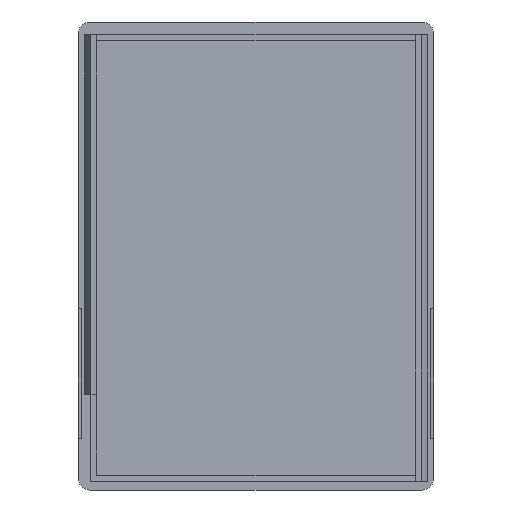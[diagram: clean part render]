
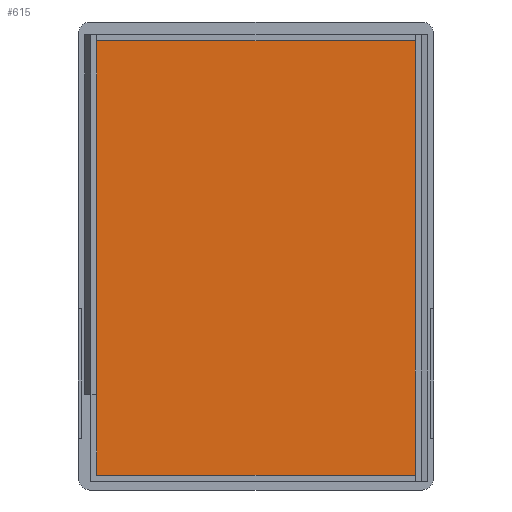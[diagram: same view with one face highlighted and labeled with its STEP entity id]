
A CAD part, left-side view. The second image highlights one B-rep face of the part: STEP entity #615.
In plain terms, the highlighted planar face has unit normal (-1, 0, 0).
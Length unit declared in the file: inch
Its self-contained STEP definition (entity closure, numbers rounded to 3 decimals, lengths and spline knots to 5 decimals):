
#11 = EDGE_CURVE ( 'NONE', #232, #1016, #521, .T. ) ;
#21 = PLANE ( 'NONE',  #1307 ) ;
#103 = VECTOR ( 'NONE', #201, 39.37008 ) ;
#193 = DIRECTION ( 'NONE',  ( 0., 0., 1. ) ) ;
#201 = DIRECTION ( 'NONE',  ( 0., -1., 0. ) ) ;
#228 = ORIENTED_EDGE ( 'NONE', *, *, #696, .T. ) ;
#231 = CARTESIAN_POINT ( 'NONE',  ( 0., 0., 0. ) ) ;
#232 = VERTEX_POINT ( 'NONE', #1207 ) ;
#241 = VECTOR ( 'NONE', #396, 39.37008 ) ;
#266 = LINE ( 'NONE', #1110, #1326 ) ;
#277 = CARTESIAN_POINT ( 'NONE',  ( 0., 0.10709, -2.6248 ) ) ;
#331 = ORIENTED_EDGE ( 'NONE', *, *, #11, .T. ) ;
#392 = VERTEX_POINT ( 'NONE', #277 ) ;
#396 = DIRECTION ( 'NONE',  ( 0., 0., -1. ) ) ;
#419 = CARTESIAN_POINT ( 'NONE',  ( 0., 0., -2.6248 ) ) ;
#521 = LINE ( 'NONE', #1044, #241 ) ;
#528 = LINE ( 'NONE', #419, #103 ) ;
#548 = DIRECTION ( 'NONE',  ( 0., 0., 1. ) ) ;
#551 = LINE ( 'NONE', #843, #1218 ) ;
#560 = DIRECTION ( 'NONE',  ( 0., 1., 0. ) ) ;
#568 = EDGE_CURVE ( 'NONE', #1016, #392, #528, .T. ) ;
#615 = ADVANCED_FACE ( 'NONE', ( #616 ), #21, .T. ) ;
#616 = FACE_OUTER_BOUND ( 'NONE', #1351, .T. ) ;
#696 = EDGE_CURVE ( 'NONE', #940, #232, #266, .T. ) ;
#721 = ORIENTED_EDGE ( 'NONE', *, *, #1156, .T. ) ;
#760 = DIRECTION ( 'NONE',  ( -1., 0., 0. ) ) ;
#815 = CARTESIAN_POINT ( 'NONE',  ( 0., 1.95118, -2.6248 ) ) ;
#843 = CARTESIAN_POINT ( 'NONE',  ( 0., 0.10709, 0. ) ) ;
#940 = VERTEX_POINT ( 'NONE', #1143 ) ;
#1016 = VERTEX_POINT ( 'NONE', #815 ) ;
#1044 = CARTESIAN_POINT ( 'NONE',  ( 0., 1.95118, 0. ) ) ;
#1110 = CARTESIAN_POINT ( 'NONE',  ( 0., 0., -0.10906 ) ) ;
#1143 = CARTESIAN_POINT ( 'NONE',  ( 0., 0.10709, -0.10906 ) ) ;
#1156 = EDGE_CURVE ( 'NONE', #392, #940, #551, .T. ) ;
#1207 = CARTESIAN_POINT ( 'NONE',  ( 0., 1.95118, -0.10906 ) ) ;
#1218 = VECTOR ( 'NONE', #193, 39.37008 ) ;
#1267 = ORIENTED_EDGE ( 'NONE', *, *, #568, .T. ) ;
#1307 = AXIS2_PLACEMENT_3D ( 'NONE', #231, #760, #548 ) ;
#1326 = VECTOR ( 'NONE', #560, 39.37008 ) ;
#1351 = EDGE_LOOP ( 'NONE', ( #228, #331, #1267, #721 ) ) ;
